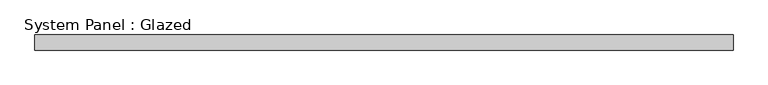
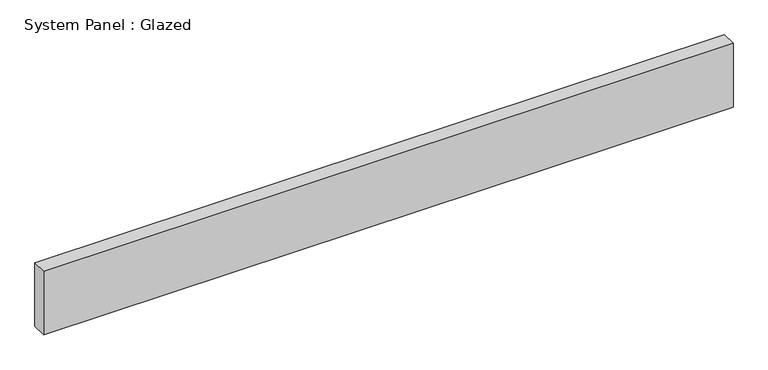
"""IFC4 building model written with IfcOpenShell, lengths in millimetres: plate geometry, System Panel : Glazed."""

from ifc_helpers import new_model, si_unit, origin, origin_with_axes, place, context, project, spatial, polyline, outline, extrude, source, transform, mapped, element, save


def system_panel_glazed_e36701dd(model_context):
    return source(origin(), model_context, "Body", "SweptSolid", [
        extrude(outline(polyline([(586.3065357, 19.05), (-586.3065357, 19.05), (-586.3065357, 44.45), (586.3065357, 44.45), (586.3065357, 19.05)])), origin_with_axes(), (0.0, 0.0, 1.0), 114.3),
    ])


if __name__ == "__main__":
    model = new_model("IFC4")
    model_context = context("Model", 3, world=origin())
    ifc_project = project(units=[si_unit("LENGTHUNIT", "METRE", prefix="MILLI")], contexts=[model_context])
    site = spatial("IfcSite", under=ifc_project)
    building = spatial("IfcBuilding", under=site)
    placement = place(None, origin())
    system_panel_glazed_shape = system_panel_glazed_e36701dd(model_context)
    element("IfcPlate", 1, ObjectType="System Panel : Glazed", at=placement, inside=building, context=model_context, shape_type="MappedRepresentation", body=[
        mapped(system_panel_glazed_shape, transform((0.0, 0.0, 0.0), x_axis=(1.0, 0.0, 0.0), y_axis=(0.0, 1.0, 0.0), z_axis=(0.0, 0.0, 1.0))),
    ])
    save(model, "model.ifc")
